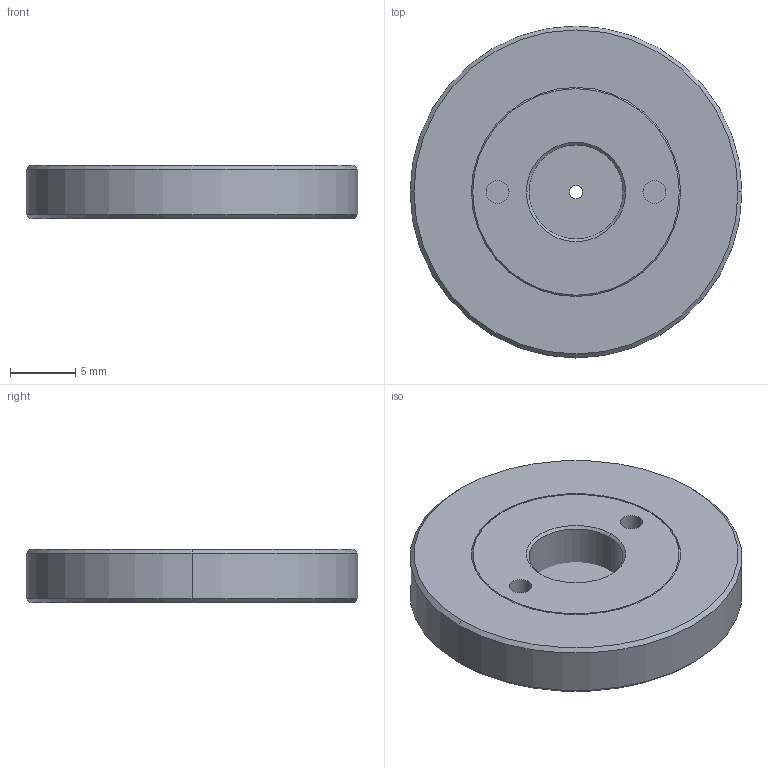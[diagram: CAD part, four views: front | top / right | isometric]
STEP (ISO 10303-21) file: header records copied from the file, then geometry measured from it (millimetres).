
FILE_DESCRIPTION (( 'STEP AP203' ), '1' );
FILE_NAME ('1-XH_3-XH_defeature.STEP', '2021-08-11T07:49:46', ( '' ), ( '' ), 'SwSTEP 2.0', 'SolidWorks 2019', '' );
FILE_SCHEMA (( 'CONFIG_CONTROL_DESIGN' ));
Length unit declared in the file: millimetre
Products named in the file (1): 1-XH_3-XH_defeature
Bounding box: 25.4 x 25.4 x 4.1 mm (x, y, z)
Volume: 1877.7 mm3; surface area: 2162 mm2
Topology: 3 solids, 3 shells, 47 faces, 94 edges, 58 vertices
Faces by surface type: cylinder 22, cone 14, plane 11
Entity records: 1319 total; most frequent: DIRECTION 248, CARTESIAN_POINT 200, ORIENTED_EDGE 188, AXIS2_PLACEMENT_3D 106, EDGE_CURVE 94, CIRCLE 58, VERTEX_POINT 58, EDGE_LOOP 58
